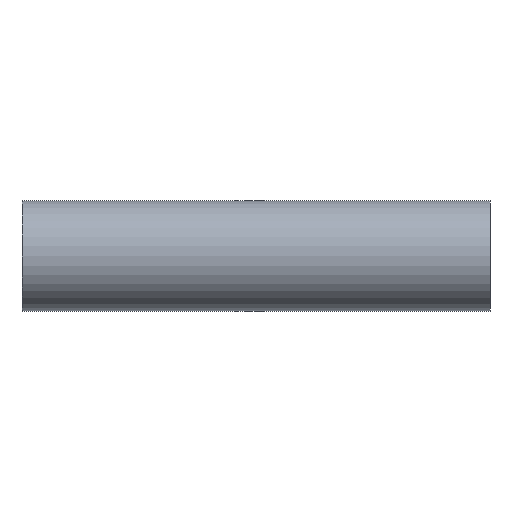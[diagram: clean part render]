
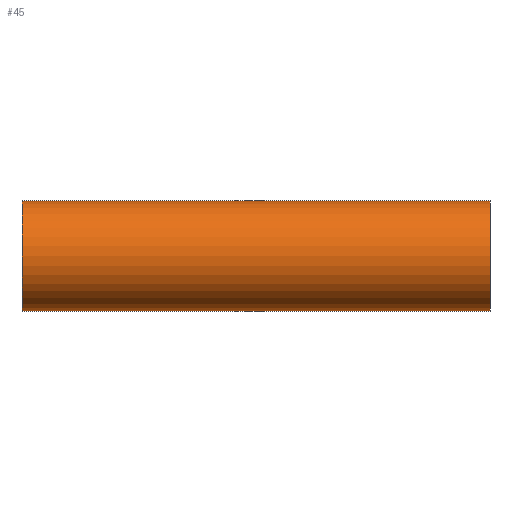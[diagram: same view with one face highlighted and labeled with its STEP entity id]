
A CAD part, front view. The second image highlights one B-rep face of the part: STEP entity #45.
In plain terms, the highlighted cylindrical face has radius 12.7 mm (diameter 25.4 mm), a partial arc.
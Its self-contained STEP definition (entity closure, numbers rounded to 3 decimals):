
#3 = CIRCLE ( 'NONE', #716, 12.7 ) ;
#19 = DIRECTION ( 'NONE',  ( 1., 0., 0. ) ) ;
#23 = EDGE_CURVE ( 'NONE', #539, #553, #428, .T. ) ;
#45 = ADVANCED_FACE ( 'NONE', ( #478 ), #417, .T. ) ;
#55 = CARTESIAN_POINT ( 'NONE',  ( 54., 0., -12.7 ) ) ;
#93 = DIRECTION ( 'NONE',  ( 0., 0., -1. ) ) ;
#96 = ORIENTED_EDGE ( 'NONE', *, *, #23, .T. ) ;
#105 = VERTEX_POINT ( 'NONE', #456 ) ;
#137 = ORIENTED_EDGE ( 'NONE', *, *, #276, .F. ) ;
#148 = DIRECTION ( 'NONE',  ( 1., 0., 0. ) ) ;
#174 = ORIENTED_EDGE ( 'NONE', *, *, #382, .T. ) ;
#183 = EDGE_CURVE ( 'NONE', #527, #539, #272, .T. ) ;
#188 = VECTOR ( 'NONE', #19, 1000. ) ;
#213 = CARTESIAN_POINT ( 'NONE',  ( -54., 0., -12.7 ) ) ;
#235 = CARTESIAN_POINT ( 'NONE',  ( -54., 0., 12.7 ) ) ;
#272 = LINE ( 'NONE', #419, #547 ) ;
#276 = EDGE_CURVE ( 'NONE', #105, #553, #423, .T. ) ;
#287 = DIRECTION ( 'NONE',  ( -1., 0., 0. ) ) ;
#382 = EDGE_CURVE ( 'NONE', #105, #527, #3, .T. ) ;
#417 = CYLINDRICAL_SURFACE ( 'NONE', #535, 12.7 ) ;
#419 = CARTESIAN_POINT ( 'NONE',  ( -54., 0., -12.7 ) ) ;
#423 = LINE ( 'NONE', #235, #188 ) ;
#428 = CIRCLE ( 'NONE', #572, 12.7 ) ;
#456 = CARTESIAN_POINT ( 'NONE',  ( -54., 0., 12.7 ) ) ;
#474 = DIRECTION ( 'NONE',  ( 1., 0., 0. ) ) ;
#478 = FACE_OUTER_BOUND ( 'NONE', #712, .T. ) ;
#527 = VERTEX_POINT ( 'NONE', #213 ) ;
#528 = DIRECTION ( 'NONE',  ( 0., 0., -1. ) ) ;
#531 = CARTESIAN_POINT ( 'NONE',  ( -54., 0., 0. ) ) ;
#535 = AXIS2_PLACEMENT_3D ( 'NONE', #531, #148, #528 ) ;
#539 = VERTEX_POINT ( 'NONE', #55 ) ;
#547 = VECTOR ( 'NONE', #561, 1000. ) ;
#553 = VERTEX_POINT ( 'NONE', #582 ) ;
#561 = DIRECTION ( 'NONE',  ( 1., 0., 0. ) ) ;
#572 = AXIS2_PLACEMENT_3D ( 'NONE', #586, #287, #93 ) ;
#582 = CARTESIAN_POINT ( 'NONE',  ( 54., 0., 12.7 ) ) ;
#586 = CARTESIAN_POINT ( 'NONE',  ( 54., 0., 0. ) ) ;
#607 = DIRECTION ( 'NONE',  ( 0., 0., -1. ) ) ;
#672 = ORIENTED_EDGE ( 'NONE', *, *, #183, .T. ) ;
#680 = CARTESIAN_POINT ( 'NONE',  ( -54., 0., 0. ) ) ;
#712 = EDGE_LOOP ( 'NONE', ( #137, #174, #672, #96 ) ) ;
#716 = AXIS2_PLACEMENT_3D ( 'NONE', #680, #474, #607 ) ;
